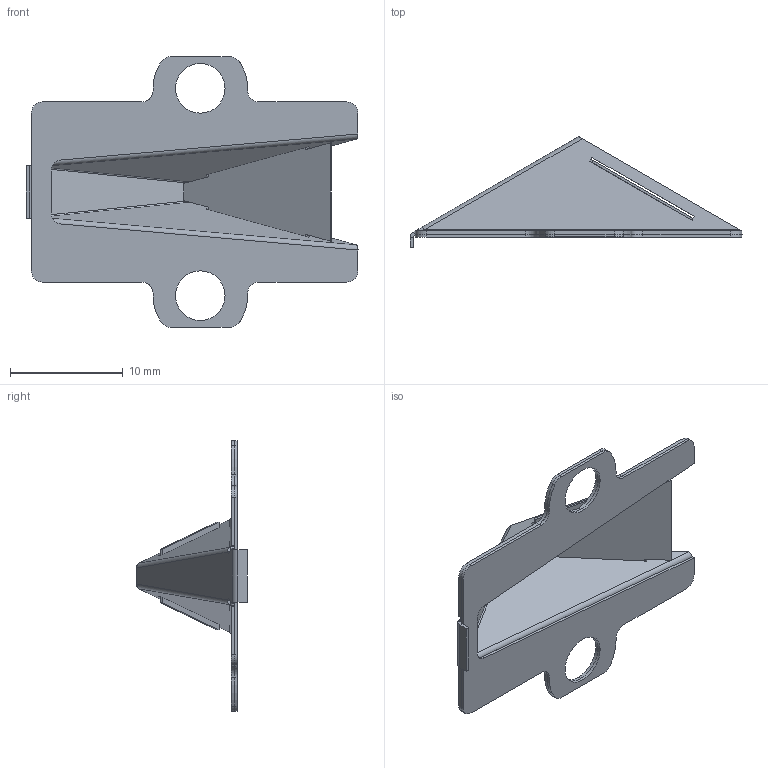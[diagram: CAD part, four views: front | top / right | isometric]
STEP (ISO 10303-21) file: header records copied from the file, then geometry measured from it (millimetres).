
FILE_DESCRIPTION (( 'STEP AP203' ), '1' );
FILE_NAME ('45.001.011.01 A ASSY END CAP DIFFUSER.STEP', '2017-04-18T16:10:04', ( 'Rob' ), ( '' ), 'SwSTEP 2.0', 'SolidWorks 2017', '' );
FILE_SCHEMA (( 'CONFIG_CONTROL_DESIGN' ));
Length unit declared in the file: millimetre
Products named in the file (4): 45.001.011.01 A ASSY END CAP DIFFUSER; 64.018.001.01 C REFLECTOR MLTM TERM FLAT CONN SIDE_DefaultSM-FLAT-PATTERN; 64.001.012.01 A END CAP DIFFUSER; 67.700.001.01 A END CAP GASKET
Assembly tree (3 placements, depth 2):
  45.001.011.01 A ASSY END CAP DIFFUSER
    64.018.001.01 C REFLECTOR MLTM TERM FLAT CONN SIDE_DefaultSM-FLAT-PATTERN
    64.001.012.01 A END CAP DIFFUSER
    67.700.001.01 A END CAP GASKET
Bounding box: 29.47 x 9.82 x 24 mm (x, y, z)
Volume: 269.2 mm3; surface area: 2055.9 mm2
Topology: 3 solids, 3 shells, 147 faces, 383 edges, 242 vertices
Faces by surface type: plane 80, cylinder 56, bspline 11
Entity records: 5074 total; most frequent: CARTESIAN_POINT 1072, ORIENTED_EDGE 766, DIRECTION 740, EDGE_CURVE 383, VECTOR 256, LINE 256, AXIS2_PLACEMENT_3D 242, VERTEX_POINT 242
